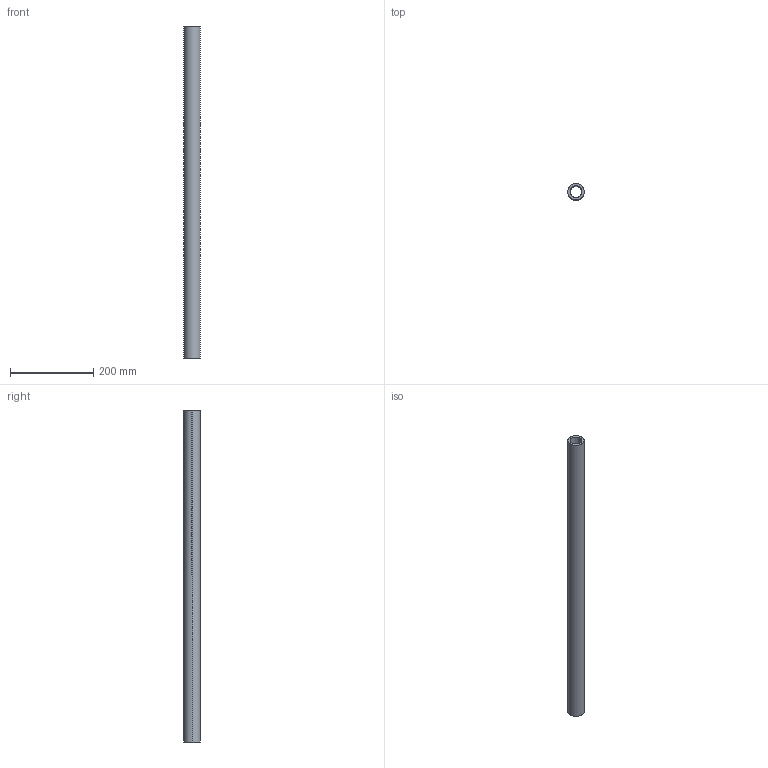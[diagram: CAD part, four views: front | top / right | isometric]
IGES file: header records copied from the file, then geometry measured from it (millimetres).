
Start section: SolidWorks IGES file using analytic representation for surfaces
Global section: file name: C:\Users\IanO\Desktop\L1771_v2\L1771.40_v2\L1771.40_v2_20230705_IGES\L1771.40-0800.igs; native system: SolidWorks 2019; preprocessor: SolidWorks 2019; author: IanO; date: 230705.160208; units: millimetre
Bounding box: 40 x 40 x 800 mm (x, y, z)
Surface area: 172184.4 mm2 (no closed solid volume)
Topology: 0 solids, 0 shells, 6 faces, 272 edges, 272 vertices
Faces by surface type: revolution 4, bspline 2
